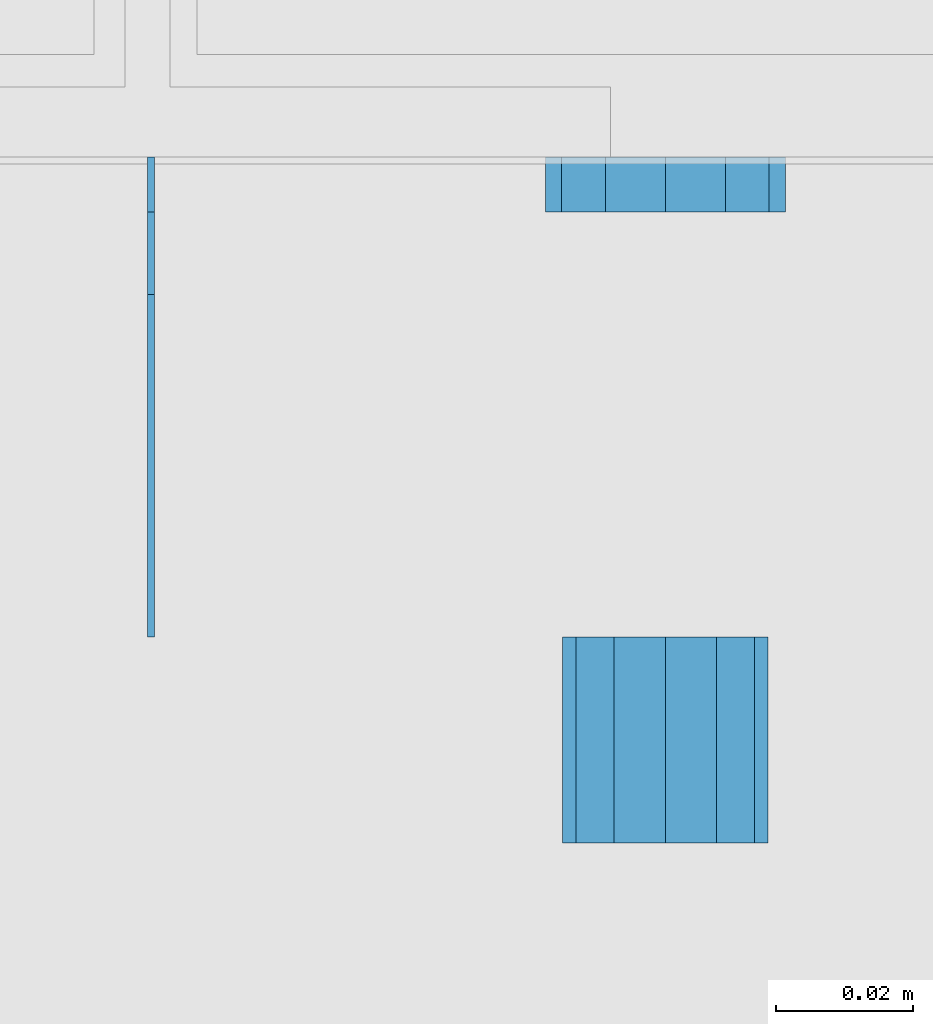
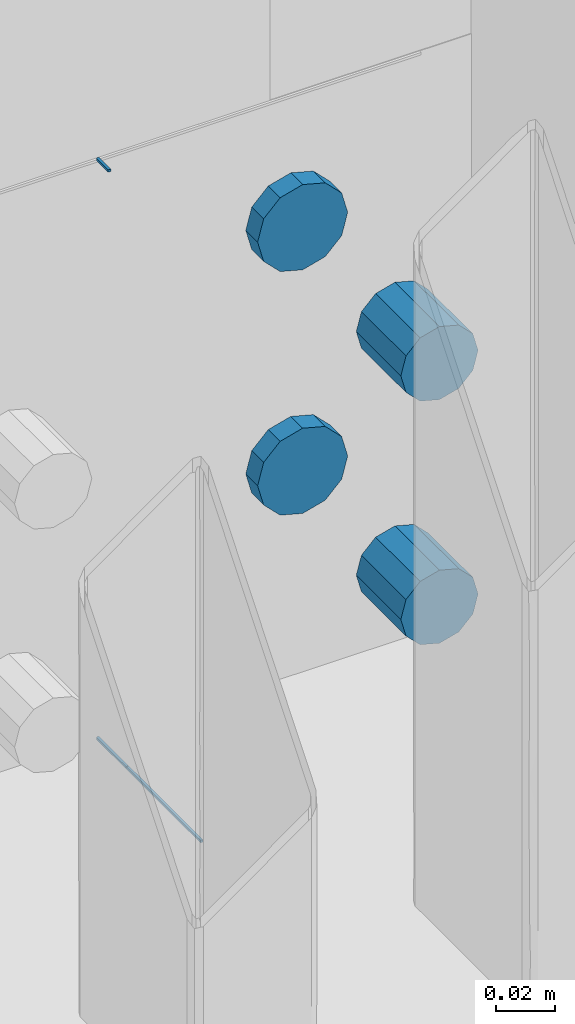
# One storey, part 104 of 186: 7 beams.
"""IFC4X3_ADD2 building model written with IfcOpenShell, lengths in millimetres."""

from ifc_helpers import new_model, si_unit, direction, frame, frame_2d, origin_with_axes, place, context, subcontext, project, spatial, indexed_curve, rectangle, outline, extrude, material, element, save


model = new_model("IFC4X3_ADD2")

# Units and contexts
model_context = context("Model", 3, precision=1e-05, world=origin_with_axes(), true_north=direction((0.0, 1.0)))
body_context = subcontext(model_context, "Body", "Model", "MODEL_VIEW")
ifc_project = project(units=[si_unit("LENGTHUNIT", "METRE", prefix="MILLI"), si_unit("AREAUNIT", "SQUARE_METRE"), si_unit("VOLUMEUNIT", "CUBIC_METRE"), si_unit("PLANEANGLEUNIT", "RADIAN"), si_unit("TIMEUNIT", "SECOND"), si_unit("MASSUNIT", "GRAM")], contexts=[model_context])

# Site, building, storey
site_placement = place(None, origin_with_axes())
site = spatial("IfcSite", under=ifc_project, at=site_placement, Name="Site", CompositionType="ELEMENT")
building_placement = place(site_placement, origin_with_axes())
building = spatial("IfcBuilding", under=site, at=building_placement, Name="IFC Building Story")
storey_placement = place(building_placement, frame((0.0, 0.0, 4370.0), z_axis=(0.0, 0.0, 1.0), x_axis=(1.0, 0.0, 0.0)))
storey = spatial("IfcBuildingStorey", under=building, at=storey_placement, Name="ETAGE 10 (1)", Elevation=4370.0)

# Beams
ifc_material_1 = material(Name="STEEL/Accessory_invisible")
beam_1_placement = place(storey_placement, frame((27755.689, 17934.9997253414, 3841.801368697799), z_axis=(1.0, 0.0, 0.0), x_axis=(0.0, 0.0, 1.0)))
element("IfcBeam", 1, at=beam_1_placement, inside=storey, material=ifc_material_1, Name="ZW1", ObjectType="1*1 14", context=body_context, shape_type="SweptSolid", body=[
    extrude(rectangle(XDim=0.9999999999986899, YDim=50.0, at=frame_2d((0.0, 5.95523630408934e-12), x_axis=(1.0, 0.0))), origin_with_axes(), (0.0, 0.0, 1.0), 1.0),
])
beam_2_placement = place(storey_placement, frame((27755.689, 17975.9989318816, 4079.500419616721), z_axis=(1.0, 0.0, 0.0), x_axis=(0.0, 0.0, 1.0)))
element("IfcBeam", 2, at=beam_2_placement, inside=storey, material=ifc_material_1, Name="ZW1", ObjectType="1*1 15", context=body_context, shape_type="SweptSolid", body=[
    extrude(rectangle(XDim=0.9999999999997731, YDim=7.99999999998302, at=frame_2d((0.0, 5.95523630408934e-12), x_axis=(1.0, 0.0))), origin_with_axes(), (0.0, 0.0, 1.0), 1.0),
])
ifc_material_2 = material(Name="STEEL/Accessory_invisible 261")
beam_3_placement = place(storey_placement, frame((27755.689, 17969.9997253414, 3841.80136869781), z_axis=(1.0, 0.0, 0.0), x_axis=(0.0, 0.0, 1.0)))
element("IfcBeam", 3, at=beam_3_placement, inside=storey, material=ifc_material_2, Name="PR10", ObjectType="1*1 13", context=body_context, shape_type="SweptSolid", body=[
    extrude(rectangle(XDim=0.9999999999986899, YDim=20.0, at=frame_2d((0.0, 5.95523630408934e-12), x_axis=(1.0, 0.0))), origin_with_axes(), (0.0, 0.0, 1.0), 1.0),
])
ifc_material_3 = material(Name="STEEL/Accessory_Hole_Concrete 8616")
for number, where, z_axis, x_axis, name in (
    (4, (27831.189, 17979.9989318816, 4030.000419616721), (0.0, -1.0, 0.0), (0.2588190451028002, 0.0, 0.9659258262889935), "ZW9"),
    (5, (27831.189, 17979.9989318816, 3930.000419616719), (0.0, -1.0, 0.0), (0.2588190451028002, 0.0, 0.9659258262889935), "ZW9"),
):
    element("IfcBeam", number, at=place(storey_placement, frame(where, z_axis=z_axis, x_axis=x_axis)), inside=storey, material=ifc_material_3, Name=name, ObjectType="D35", context=body_context, shape_type="SweptSolid", body=[
        extrude(outline(indexed_curve([(-12.37436867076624, -12.37436867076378), (-16.90370196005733, -4.529333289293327), (-16.90370196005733, 4.529333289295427), (-12.37436867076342, 12.37436867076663), (-4.52933328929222, 16.90370196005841), (4.529333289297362, 16.90370196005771), (12.374368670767, 12.37436867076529), (16.90370196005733, 4.529333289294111), (16.90370196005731, -4.529333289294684), (12.37436867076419, -12.37436867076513), (4.529333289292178, -16.90370196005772), (-4.529333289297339, -16.90370196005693), (-12.37436867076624, -12.37436867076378)])), origin_with_axes(), (0.0, 0.0, 1.0), 8.0),
    ])
ifc_material_4 = material(Name="STEEL/Accessory")
for number, where, z_axis, x_axis, name in (
    (6, (27831.189, 17909.9989318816, 4030.000419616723), (0.0, -1.0, 0.0), (-0.9659258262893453, 0.0, -0.2588190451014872), "SD12"),
    (7, (27831.189, 17909.9989318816, 3930.000419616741), (0.0, -1.0, 0.0), (0.9659258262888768, 0.0, 0.2588190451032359), "SD12"),
):
    element("IfcBeam", number, at=place(storey_placement, frame(where, z_axis=z_axis, x_axis=x_axis)), inside=storey, material=ifc_material_4, Name=name, ObjectType="D30", context=body_context, shape_type="SweptSolid", body=[
        extrude(outline(indexed_curve([(10.60660171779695, 10.60660171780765), (14.48888739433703, 3.882285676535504), (14.48888739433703, -3.882285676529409), (10.60660171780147, -10.60660171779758), (3.882285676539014, -14.48888739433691), (-3.882285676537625, -14.48888739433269), (-10.60660171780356, -10.60660171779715), (-14.48888739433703, -3.882285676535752), (-14.48888739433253, 3.882285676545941), (-10.60660171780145, 10.60660171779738), (-3.882285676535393, 14.48888739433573), (3.882285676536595, 14.48888739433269), (10.60660171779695, 10.60660171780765)])), origin_with_axes(), (0.0, 0.0, 1.0), 30.0),
    ])

save(model, "model.ifc")
